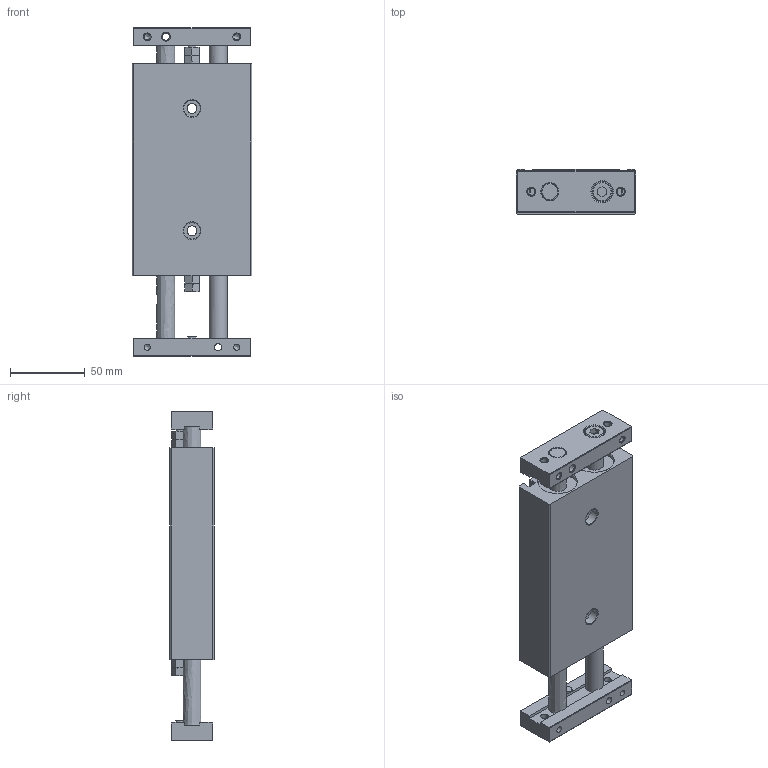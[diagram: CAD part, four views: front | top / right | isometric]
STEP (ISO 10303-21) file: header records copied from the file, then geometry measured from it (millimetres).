
FILE_DESCRIPTION((''),'2;1');
FILE_NAME('I:\3D電子目錄\氣缸\STX\STX\STX25\STX25x30.stp','2007-10-02T09:06:26',('Administrator'),(''),'Autodesk Inventor 11','Autodesk Inventor 11','');
FILE_SCHEMA(('AUTOMOTIVE_DESIGN { 1 0 10303 214 1 1 1 1 }'));
Length unit declared in the file: millimetre
Products named in the file (1): STX25
Bounding box: 80 x 30 x 220 mm (x, y, z)
Volume: 380763.3 mm3; surface area: 66429.3 mm2
Topology: 1 solids, 1 shells, 274 faces, 653 edges, 406 vertices
Faces by surface type: plane 127, cone 75, bspline 46, cylinder 22, torus 4
Full cylindrical faces by diameter (mm): 4.134 x4, 6 x2, 11 x2, 12 x4, 12.2 x2, 13 x2, 14 x2, 26 x2, 27.4 x2
Entity records: 8035 total; most frequent: CARTESIAN_POINT 2555, ORIENTED_EDGE 1058, DIRECTION 1056, EDGE_CURVE 529, EDGE_LOOP 420, AXIS2_PLACEMENT_3D 402, VERTEX_POINT 373, FACE_OUTER_BOUND 274
